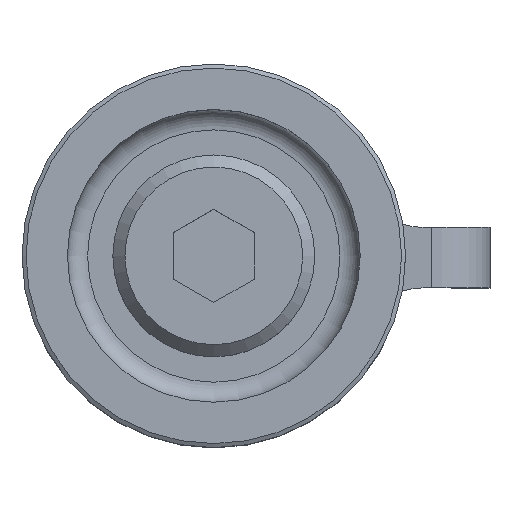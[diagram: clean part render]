
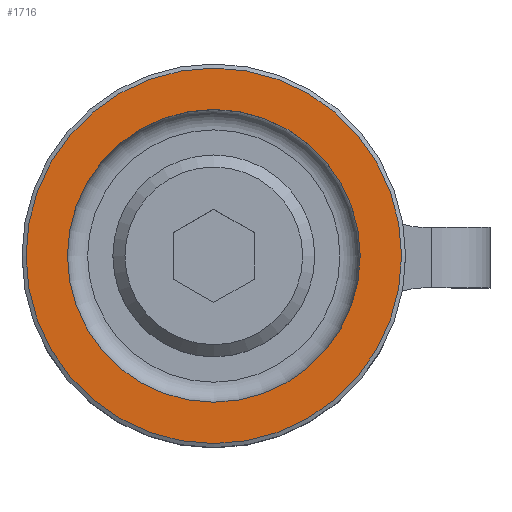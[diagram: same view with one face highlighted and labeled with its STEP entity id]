
A CAD part, top view. The second image highlights one B-rep face of the part: STEP entity #1716.
In plain terms, the highlighted planar face has unit normal (0, 0, 1) as drawn and (1, 0, 0) by its records, which use the part's own axes.
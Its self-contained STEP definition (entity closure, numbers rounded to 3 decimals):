
#1570=PLANE('',#3339);
#1716=ADVANCED_FACE('A_MATE1',(#1896,#1897),#1570,.F.);
#1896=FACE_BOUND('',#2061,.T.);
#1897=FACE_BOUND('',#2062,.T.);
#2061=EDGE_LOOP('',(#2333));
#2062=EDGE_LOOP('',(#2334));
#2333=ORIENTED_EDGE('',*,*,#2955,.T.);
#2334=ORIENTED_EDGE('',*,*,#2956,.F.);
#2762=VERTEX_POINT('',#4328);
#2763=VERTEX_POINT('',#4330);
#2955=EDGE_CURVE('',#2762,#2762,#3176,.T.);
#2956=EDGE_CURVE('',#2763,#2763,#3177,.T.);
#3176=CIRCLE('',#3337,9.3);
#3177=CIRCLE('',#3338,7.25);
#3337=AXIS2_PLACEMENT_3D('',#4327,#3703,#3704);
#3338=AXIS2_PLACEMENT_3D('',#4329,#3705,#3706);
#3339=AXIS2_PLACEMENT_3D('',#4331,#3707,#3708);
#3703=DIRECTION('',(1.,0.,0.));
#3704=DIRECTION('',(0.,0.,1.));
#3705=DIRECTION('',(1.,0.,0.));
#3706=DIRECTION('',(0.,0.,1.));
#3707=DIRECTION('',(-1.,0.,0.));
#3708=DIRECTION('',(0.,0.,1.));
#4327=CARTESIAN_POINT('',(10.,0.,0.));
#4328=CARTESIAN_POINT('',(10.,0.,9.3));
#4329=CARTESIAN_POINT('',(10.,0.,0.));
#4330=CARTESIAN_POINT('',(10.,0.,7.25));
#4331=CARTESIAN_POINT('',(10.,9.5,0.));
